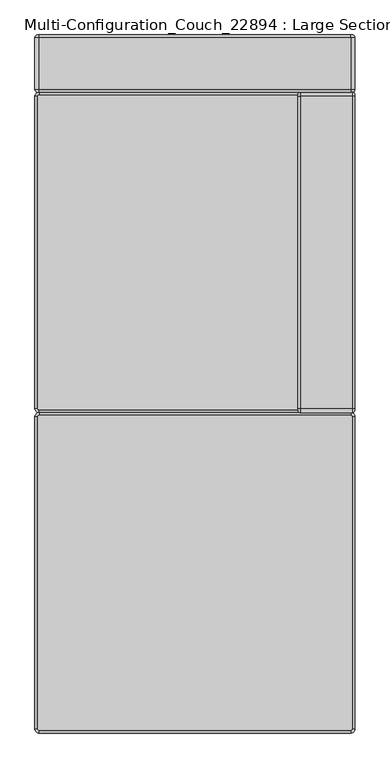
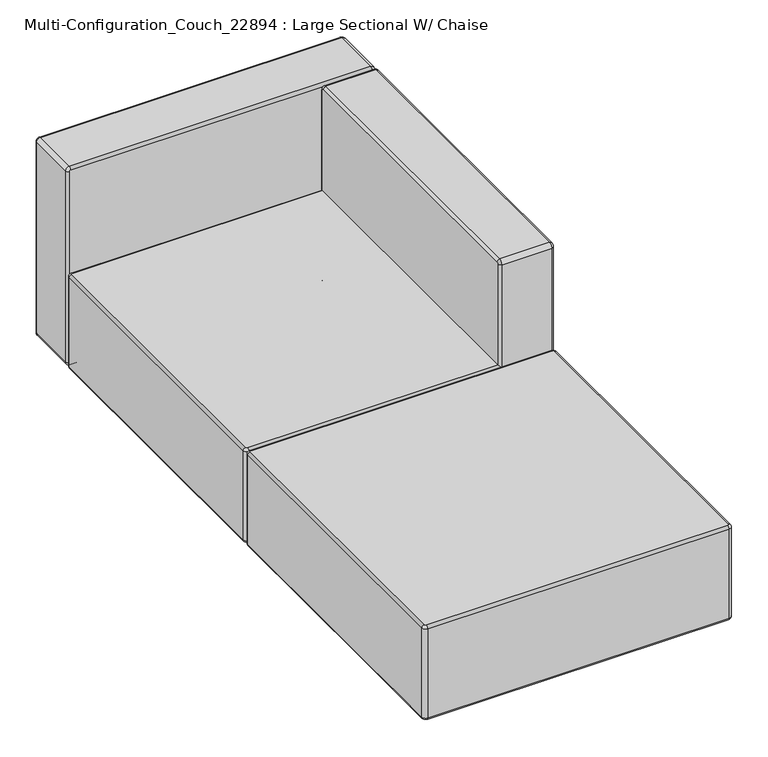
"""IFC4 building model written with IfcOpenShell, lengths in millimetres: furniture geometry, Multi-Configuration_Couch_22894 : Large Sectional W/ Chaise."""

from ifc_helpers import new_model, si_unit, point, frame, origin, place, context, project, spatial, circle_curve, ellipse_curve, trimmed, source, transform, mapped, element, save
from ifc_brep_helpers import plane_surface, cylinder_surface, revolved_surface, advanced_brep


def multi_configuration_couch_22894_large_sectional_w_chaise_a777d03c(model_context):
    return source(origin(), model_context, "Body", "AdvancedBrep", [
        advanced_brep(
        [(1290.9237705, 1444.5729508, 549.275), (1294.0987705, 1444.5729508, 552.45), (1986.2487705, 1444.5729508, 552.45), (1989.4237705, 1444.5729508, 549.275), (1989.4237705, 1444.5729508, 85.725), (1986.2487705, 1444.5729508, 82.55), (1294.0987705, 1444.5729508, 82.55), (1290.9237705, 1444.5729508, 85.725), (1290.9237705, 1317.5729508, 85.725), (1294.0987705, 1317.5729508, 82.55), (1986.2487705, 1317.5729508, 82.55), (1989.4237705, 1317.5729508, 85.725), (1989.4237705, 1317.5729508, 549.275), (1986.2487705, 1317.5729508, 552.45), (1294.0987705, 1317.5729508, 552.45), (1290.9237705, 1317.5729508, 549.275), (1294.0987705, 1438.2229508, 558.8), (1294.0987705, 1323.9229508, 558.8), (1986.2487705, 1323.9229508, 558.8), (1986.2487705, 1438.2229572, 558.8), (1284.5737705, 1438.2229508, 85.725), (1284.5737705, 1323.9229508, 85.725), (1284.5737705, 1323.9229508, 549.275), (1284.5737705, 1438.2229508, 549.275), (1986.2487705, 1438.2229508, 76.2), (1986.2487705, 1323.9229508, 76.2), (1294.0987705, 1323.9229508, 76.2), (1294.0987705, 1438.2229508, 76.2), (1995.7737705, 1438.2229508, 549.275), (1995.7737705, 1323.9229508, 549.275), (1995.7737705, 1323.9229508, 85.725), (1995.7737705, 1438.2229508, 85.725)],
        [
            (0, 1, circle_curve(frame((1294.0987705, 1444.5729508, 549.275), z_axis=(0.0, 1.0, 0.0), x_axis=(0.0, 0.0, 1.0)), 3.175)),
            (1, 2),
            (2, 3, circle_curve(frame((1986.2487705, 1444.5729508, 549.275), z_axis=(0.0, 1.0, 0.0), x_axis=(1.0, 0.0, 0.0)), 3.175)),
            (3, 4),
            (4, 5, circle_curve(frame((1986.2487705, 1444.5729508, 85.725), z_axis=(0.0, 1.0, 0.0), x_axis=(0.0, 0.0, -1.0)), 3.175)),
            (5, 6),
            (6, 7, circle_curve(frame((1294.0987705, 1444.5729508, 85.725), z_axis=(0.0, 1.0, 0.0), x_axis=(-1.0, 0.0, 0.0)), 3.175)),
            (7, 0),
            (8, 9, circle_curve(frame((1294.0987705, 1317.5729508, 85.725), z_axis=(0.0, -1.0, 0.0), x_axis=(-1.0, 0.0, 0.0)), 3.175)),
            (9, 10),
            (10, 11, circle_curve(frame((1986.2487705, 1317.5729508, 85.725), z_axis=(0.0, -1.0, 0.0), x_axis=(0.0, 0.0, -1.0)), 3.175)),
            (11, 12),
            (12, 13, circle_curve(frame((1986.2487705, 1317.5729508, 549.275), z_axis=(0.0, -1.0, 0.0), x_axis=(1.0, 0.0, 0.0)), 3.175)),
            (13, 14),
            (14, 15, circle_curve(frame((1294.0987705, 1317.5729508, 549.275), z_axis=(0.0, -1.0, 0.0), x_axis=(0.0, 0.0, 1.0)), 3.175)),
            (15, 8),
            (16, 17),
            (17, 18),
            (18, 19),
            (19, 16),
            (20, 21),
            (21, 22),
            (22, 23),
            (23, 20),
            (24, 25),
            (25, 26),
            (26, 27),
            (27, 24),
            (28, 29),
            (29, 30),
            (30, 31),
            (31, 28),
            (22, 17, circle_curve(frame((1294.0987705, 1323.9229508, 549.275), z_axis=(0.0, 1.0, 0.0), x_axis=(1.0, 0.0, 0.0)), 9.525)),
            (16, 23, circle_curve(frame((1294.0987705, 1438.2229508, 549.275), z_axis=(0.0, -1.0, 0.0), x_axis=(1.0, 0.0, 0.0)), 9.525)),
            (18, 29, circle_curve(frame((1986.2487705, 1323.9229508, 549.275), z_axis=(0.0, 1.0, 0.0), x_axis=(1.0, 0.0, 0.0)), 9.525)),
            (28, 19, circle_curve(frame((1986.2487705, 1438.2229508, 549.275), z_axis=(0.0, -1.0, 0.0), x_axis=(1.0, 0.0, 0.0)), 9.525)),
            (26, 21, circle_curve(frame((1294.0987705, 1323.9229508, 85.725), z_axis=(0.0, 1.0, 0.0), x_axis=(1.0, 0.0, 0.0)), 9.525)),
            (20, 27, circle_curve(frame((1294.0987705, 1438.2229508, 85.725), z_axis=(0.0, -1.0, 0.0), x_axis=(1.0, 0.0, 0.0)), 9.525)),
            (30, 25, circle_curve(frame((1986.2487705, 1323.9229508, 85.725), z_axis=(0.0, 1.0, 0.0), x_axis=(1.0, 0.0, 0.0)), 9.525)),
            (24, 31, circle_curve(frame((1986.2487705, 1438.2229508, 85.725), z_axis=(0.0, -1.0, 0.0), x_axis=(1.0, 0.0, 0.0)), 9.525)),
            (23, 0, circle_curve(frame((1290.9237705, 1438.2229508, 549.275), z_axis=(0.0, 0.0, -1.0), x_axis=(1.0, 0.0, 0.0)), 6.35)),
            (7, 20, circle_curve(frame((1290.9237705, 1438.2229508, 85.725), z_axis=(0.0, 0.0, 1.0), x_axis=(1.0, 0.0, 0.0)), 6.35)),
            (27, 6, circle_curve(frame((1294.0987705, 1438.2229508, 82.55), z_axis=(1.0, 0.0, 0.0), x_axis=(0.0, 0.0, 1.0)), 6.35)),
            (5, 24, circle_curve(frame((1986.2487705, 1438.2229508, 82.55), z_axis=(-1.0, 0.0, 0.0), x_axis=(0.0, 0.0, 1.0)), 6.35)),
            (31, 4, circle_curve(frame((1989.4237705, 1438.2229508, 85.725), z_axis=(0.0, 0.0, 1.0), x_axis=(-1.0, 0.0, 0.0)), 6.35)),
            (3, 28, circle_curve(frame((1989.4237705, 1438.2229508, 549.275), z_axis=(0.0, 0.0, -1.0), x_axis=(-1.0, 0.0, 0.0)), 6.35)),
            (2, 19, circle_curve(frame((1986.2487705, 1438.2229508, 552.45), z_axis=(1.0, 0.0, 0.0), x_axis=(0.0, 0.0, -1.0)), 6.35)),
            (1, 16, circle_curve(frame((1294.0987705, 1438.2229508, 552.45), z_axis=(1.0, 0.0, 0.0), x_axis=(0.0, 0.0, -1.0)), 6.35)),
            (15, 22, circle_curve(frame((1290.9237705, 1323.9229508, 549.275), z_axis=(0.0, 0.0, -1.0), x_axis=(1.0, 0.0, 0.0)), 6.35)),
            (21, 8, circle_curve(frame((1290.9237705, 1323.9229508, 85.725), z_axis=(0.0, 0.0, 1.0), x_axis=(1.0, 0.0, 0.0)), 6.35)),
            (9, 26, circle_curve(frame((1294.0987705, 1323.9229508, 82.55), z_axis=(1.0, 0.0, 0.0), x_axis=(0.0, 0.0, 1.0)), 6.35)),
            (25, 10, circle_curve(frame((1986.2487705, 1323.9229508, 82.55), z_axis=(-1.0, 0.0, 0.0), x_axis=(0.0, 0.0, 1.0)), 6.35)),
            (11, 30, circle_curve(frame((1989.4237705, 1323.9229508, 85.725), z_axis=(0.0, 0.0, 1.0), x_axis=(-1.0, 0.0, 0.0)), 6.35)),
            (29, 12, circle_curve(frame((1989.4237705, 1323.9229508, 549.275), z_axis=(0.0, 0.0, -1.0), x_axis=(-1.0, 0.0, 0.0)), 6.35)),
            (13, 18, circle_curve(frame((1986.2487705, 1323.9229508, 552.45), z_axis=(-1.0, 0.0, 0.0), x_axis=(0.0, 0.0, -1.0)), 6.35)),
            (17, 14, circle_curve(frame((1294.0987705, 1323.9229508, 552.45), z_axis=(1.0, 0.0, 0.0), x_axis=(0.0, 0.0, -1.0)), 6.35)),
        ],
        [
            plane_surface(frame((1284.5737705, 1444.5729508, 558.8), z_axis=(0.0, 1.0, 0.0), x_axis=(-1.0, 0.0, 0.0))),
            plane_surface(frame((1284.5737705, 1317.5729508, 558.8), z_axis=(0.0, -1.0, 0.0), x_axis=(1.0, 0.0, 0.0))),
            plane_surface(frame((1995.7737705, 1444.5729508, 558.8), z_axis=(0.0, 0.0, 1.0), x_axis=(0.0, -1.0, 0.0))),
            plane_surface(frame((1284.5737705, 1444.5729508, 558.8), z_axis=(-1.0, 0.0, 0.0), x_axis=(0.0, -1.0, 0.0))),
            plane_surface(frame((1284.5737705, 1444.5729508, 76.2), z_axis=(0.0, 0.0, -1.0), x_axis=(0.0, -1.0, 0.0))),
            plane_surface(frame((1995.7737705, 1444.5729508, 76.2), z_axis=(1.0, 0.0, 0.0), x_axis=(0.0, -1.0, 0.0))),
            cylinder_surface(frame((1294.0987705, 1317.5729508, 549.275), z_axis=(0.0, -1.0, 0.0), x_axis=(1.0, 0.0, 0.0)), 9.525),
            cylinder_surface(frame((1986.2487705, 1317.5729508, 549.275), z_axis=(0.0, -1.0, 0.0), x_axis=(1.0, 0.0, 0.0)), 9.525),
            cylinder_surface(frame((1294.0987705, 1317.5729508, 85.725), z_axis=(0.0, -1.0, 0.0), x_axis=(1.0, 0.0, 0.0)), 9.525),
            cylinder_surface(frame((1986.2487705, 1317.5729508, 85.725), z_axis=(0.0, -1.0, 0.0), x_axis=(1.0, 0.0, 0.0)), 9.525),
            cylinder_surface(frame((1290.9237705, 1438.2229508, 549.275), z_axis=(0.0, 0.0, -1.0), x_axis=(1.0, 0.0, 0.0)), 6.35),
            cylinder_surface(frame((1294.0987705, 1438.2229508, 82.55), z_axis=(1.0, 0.0, 0.0), x_axis=(0.0, 0.0, 1.0)), 6.35),
            cylinder_surface(frame((1989.4237705, 1438.2229508, 85.725), z_axis=(0.0, 0.0, 1.0), x_axis=(-1.0, 0.0, 0.0)), 6.35),
            revolved_surface(trimmed(ellipse_curve(frame((1989.4237705, 1438.2229508, 549.275), z_axis=(0.0, 0.0, 1.0), x_axis=(-1.0, 0.0, 0.0)), 6.35, 6.35), [point((1995.7737705, 1438.2229508, 549.275))], [point((1989.4237705, 1444.5729508, 549.275))], True, "CARTESIAN"), (1986.2487705, 1444.5729508, 549.275), (0.0, 1.0, 0.0)),
            cylinder_surface(frame((1986.2487705, 1438.2229508, 552.45), z_axis=(-1.0, 0.0, 0.0), x_axis=(0.0, 0.0, -1.0)), 6.35),
            cylinder_surface(frame((1290.9237705, 1323.9229508, 549.275), z_axis=(0.0, 0.0, -1.0), x_axis=(1.0, 0.0, 0.0)), 6.35),
            cylinder_surface(frame((1294.0987705, 1323.9229508, 82.55), z_axis=(1.0, 0.0, 0.0), x_axis=(0.0, 0.0, 1.0)), 6.35),
            cylinder_surface(frame((1989.4237705, 1323.9229508, 85.725), z_axis=(0.0, 0.0, 1.0), x_axis=(-1.0, 0.0, 0.0)), 6.35),
            cylinder_surface(frame((1986.2487705, 1323.9229508, 552.45), z_axis=(-1.0, 0.0, 0.0), x_axis=(0.0, 0.0, -1.0)), 6.35),
            revolved_surface(trimmed(ellipse_curve(frame((1294.0987705, 1438.2229508, 552.45), z_axis=(-1.0, 0.0, 0.0), x_axis=(0.0, 0.0, -1.0)), 6.35, 6.35), [point((1294.0987705, 1438.2229508, 558.8))], [point((1294.0987705, 1444.5729508, 552.45))], True, "CARTESIAN"), (1294.0987705, 1444.5729508, 549.275), (0.0, 1.0, 0.0)),
            revolved_surface(trimmed(ellipse_curve(frame((1290.9237705, 1438.2229508, 85.725), z_axis=(0.0, 0.0, -1.0), x_axis=(1.0, 0.0, 0.0)), 6.35, 6.35), [point((1284.5737705, 1438.2229508, 85.725))], [point((1290.9237705, 1444.5729508, 85.725))], True, "CARTESIAN"), (1294.0987705, 1444.5729508, 85.725), (0.0, 1.0, 0.0)),
            revolved_surface(trimmed(ellipse_curve(frame((1986.2487705, 1438.2229508, 82.55), z_axis=(1.0, 0.0, 0.0), x_axis=(0.0, 0.0, 1.0)), 6.35, 6.35), [point((1986.2487705, 1438.2229508, 76.2))], [point((1986.2487705, 1444.5729508, 82.55))], True, "CARTESIAN"), (1986.2487705, 1444.5729508, 85.725), (0.0, 1.0, 0.0)),
            revolved_surface(trimmed(ellipse_curve(frame((1294.0987705, 1323.9229508, 552.45), z_axis=(-1.0, 0.0, 0.0), x_axis=(0.0, 0.0, -1.0)), 6.35, 6.35), [point((1294.0987705, 1317.5729508, 552.45))], [point((1294.0987705, 1323.9229508, 558.8))], True, "CARTESIAN"), (1294.0987705, 1317.5729508, 549.275), (0.0, 1.0, 0.0)),
            revolved_surface(trimmed(ellipse_curve(frame((1290.9237705, 1323.9229508, 85.725), z_axis=(0.0, 0.0, -1.0), x_axis=(1.0, 0.0, 0.0)), 6.35, 6.35), [point((1290.9237705, 1317.5729508, 85.725))], [point((1284.5737705, 1323.9229508, 85.725))], True, "CARTESIAN"), (1294.0987705, 1317.5729508, 85.725), (0.0, 1.0, 0.0)),
            revolved_surface(trimmed(ellipse_curve(frame((1986.2487705, 1323.9229508, 82.55), z_axis=(1.0, 0.0, 0.0), x_axis=(0.0, 0.0, 1.0)), 6.35, 6.35), [point((1986.2487705, 1317.5729508, 82.55))], [point((1986.2487705, 1323.9229508, 76.2))], True, "CARTESIAN"), (1986.2487705, 1317.5729508, 85.725), (0.0, 1.0, 0.0)),
            revolved_surface(trimmed(ellipse_curve(frame((1989.4237705, 1323.9229508, 549.275), z_axis=(0.0, 0.0, 1.0), x_axis=(-1.0, 0.0, 0.0)), 6.35, 6.35), [point((1989.4237705, 1317.5729508, 549.275))], [point((1995.7737705, 1323.9229508, 549.275))], True, "CARTESIAN"), (1986.2487705, 1317.5729508, 549.275), (0.0, 1.0, 0.0)),
        ],
        [
            (0, [[1, 2, 3, 4, 5, 6, 7, 8]]),
            (1, [[9, 10, 11, 12, 13, 14, 15, 16]]),
            (2, [[17, 18, 19, 20]]),
            (3, [[21, 22, 23, 24]]),
            (4, [[25, 26, 27, 28]]),
            (5, [[29, 30, 31, 32]]),
            (6, [[-23, 33, -17, 34]]),
            (7, [[-19, 35, -29, 36]]),
            (8, [[-27, 37, -21, 38]]),
            (9, [[-31, 39, -25, 40]]),
            (10, [[-24, 41, -8, 42]]),
            (11, [[-28, 43, -6, 44]]),
            (12, [[-32, 45, -4, 46]]),
            (13, [[-3, 47, -36, -46]]),
            (14, [[-2, 48, -20, -47]]),
            (15, [[-16, 49, -22, 50]]),
            (16, [[-10, 51, -26, 52]]),
            (17, [[-12, 53, -30, 54]]),
            (18, [[-14, 55, -18, 56]]),
            (19, [[-34, -48, -1, -41]]),
            (20, [[-7, -43, -38, -42]]),
            (21, [[-5, -45, -40, -44]]),
            (22, [[-15, -56, -33, -49]]),
            (23, [[-37, -51, -9, -50]]),
            (24, [[-39, -53, -11, -52]]),
            (25, [[-35, -55, -13, -54]]),
        ],
    ),
        advanced_brep(
        [(1989.4237705, 1308.0479508, 304.8), (1986.2487705, 1311.2229508, 304.8), (1294.0987705, 1311.2229508, 304.8), (1290.9237705, 1308.0479508, 304.8), (1290.9237705, 615.8979508, 304.8), (1294.0987705, 612.7229508, 304.8), (1986.2487705, 612.7229508, 304.8), (1989.4237705, 615.8979508, 304.8), (1989.4237705, 615.8979508, 76.2), (1986.2487705, 612.7229508, 76.2), (1294.0987705, 612.7229508, 76.2), (1290.9237705, 615.8979508, 76.2), (1290.9237705, 1308.0479508, 76.2), (1294.0987705, 1311.2229508, 76.2), (1986.2487705, 1311.2229508, 76.2), (1989.4237705, 1308.0479508, 76.2), (1986.2487705, 1317.5729508, 298.45), (1986.2487705, 1317.5729508, 82.55), (1294.0987705, 1317.5729508, 82.55), (1294.0987705, 1317.5729508, 298.4500065), (1995.7737705, 615.8979508, 298.45), (1995.7737705, 615.8979508, 82.55), (1995.7737705, 1308.0479508, 82.55), (1995.7737705, 1308.0479508, 298.45), (1294.0987705, 606.3729508, 298.45), (1294.0987705, 606.3729508, 82.55), (1986.2487705, 606.3729508, 82.55), (1986.2487705, 606.3729508, 298.45), (1284.5737705, 1308.0479508, 298.45), (1284.5737705, 1308.0479508, 82.55), (1284.5737705, 615.8979508, 82.55), (1284.5737705, 615.8979508, 298.45)],
        [
            (0, 1, circle_curve(frame((1986.2487705, 1308.0479508, 304.8), z_axis=(0.0, 0.0, 1.0), x_axis=(0.0, 1.0, 0.0)), 3.175)),
            (1, 2),
            (2, 3, circle_curve(frame((1294.0987705, 1308.0479508, 304.8), z_axis=(0.0, 0.0, 1.0), x_axis=(-1.0, 0.0, 0.0)), 3.175)),
            (3, 4),
            (4, 5, circle_curve(frame((1294.0987705, 615.8979508, 304.8), z_axis=(0.0, 0.0, 1.0), x_axis=(0.0, -1.0, 0.0)), 3.175)),
            (5, 6),
            (6, 7, circle_curve(frame((1986.2487705, 615.8979508, 304.8), z_axis=(0.0, 0.0, 1.0), x_axis=(1.0, 0.0, 0.0)), 3.175)),
            (7, 0),
            (8, 9, circle_curve(frame((1986.2487705, 615.8979508, 76.2), z_axis=(0.0, 0.0, -1.0), x_axis=(1.0, 0.0, 0.0)), 3.175)),
            (9, 10),
            (10, 11, circle_curve(frame((1294.0987705, 615.8979508, 76.2), z_axis=(0.0, 0.0, -1.0), x_axis=(0.0, -1.0, 0.0)), 3.175)),
            (11, 12),
            (12, 13, circle_curve(frame((1294.0987705, 1308.0479508, 76.2), z_axis=(0.0, 0.0, -1.0), x_axis=(-1.0, 0.0, 0.0)), 3.175)),
            (13, 14),
            (14, 15, circle_curve(frame((1986.2487705, 1308.0479508, 76.2), z_axis=(0.0, 0.0, -1.0), x_axis=(0.0, 1.0, 0.0)), 3.175)),
            (15, 8),
            (16, 17),
            (17, 18),
            (18, 19),
            (19, 16),
            (20, 21),
            (21, 22),
            (22, 23),
            (23, 20),
            (24, 25),
            (25, 26),
            (26, 27),
            (27, 24),
            (28, 29),
            (29, 30),
            (30, 31),
            (31, 28),
            (22, 17, circle_curve(frame((1986.2487705, 1308.0479508, 82.55), z_axis=(0.0, 0.0, 1.0), x_axis=(-1.0, 0.0, 0.0)), 9.525)),
            (16, 23, circle_curve(frame((1986.2487705, 1308.0479508, 298.45), z_axis=(0.0, 0.0, -1.0), x_axis=(-1.0, 0.0, 0.0)), 9.525)),
            (18, 29, circle_curve(frame((1294.0987705, 1308.0479508, 82.55), z_axis=(0.0, 0.0, 1.0), x_axis=(-1.0, 0.0, 0.0)), 9.525)),
            (28, 19, circle_curve(frame((1294.0987705, 1308.0479508, 298.45), z_axis=(0.0, 0.0, -1.0), x_axis=(-1.0, 0.0, 0.0)), 9.525)),
            (26, 21, circle_curve(frame((1986.2487705, 615.8979508, 82.55), z_axis=(0.0, 0.0, 1.0), x_axis=(-1.0, 0.0, 0.0)), 9.525)),
            (20, 27, circle_curve(frame((1986.2487705, 615.8979508, 298.45), z_axis=(0.0, 0.0, -1.0), x_axis=(-1.0, 0.0, 0.0)), 9.525)),
            (30, 25, circle_curve(frame((1294.0987705, 615.8979508, 82.55), z_axis=(0.0, 0.0, 1.0), x_axis=(-1.0, 0.0, 0.0)), 9.525)),
            (24, 31, circle_curve(frame((1294.0987705, 615.8979508, 298.45), z_axis=(0.0, 0.0, -1.0), x_axis=(-1.0, 0.0, 0.0)), 9.525)),
            (23, 0, circle_curve(frame((1989.4237705, 1308.0479508, 298.45), z_axis=(0.0, -1.0, 0.0), x_axis=(-1.0, 0.0, 0.0)), 6.35)),
            (7, 20, circle_curve(frame((1989.4237705, 615.8979508, 298.45), z_axis=(0.0, 1.0, 0.0), x_axis=(-1.0, 0.0, 0.0)), 6.35)),
            (27, 6, circle_curve(frame((1986.2487705, 612.7229508, 298.45), z_axis=(-1.0, 0.0, 0.0), x_axis=(0.0, 1.0, 0.0)), 6.35)),
            (5, 24, circle_curve(frame((1294.0987705, 612.7229508, 298.45), z_axis=(1.0, 0.0, 0.0), x_axis=(0.0, 1.0, 0.0)), 6.35)),
            (31, 4, circle_curve(frame((1290.9237705, 615.8979508, 298.45), z_axis=(0.0, 1.0, 0.0), x_axis=(1.0, 0.0, 0.0)), 6.35)),
            (3, 28, circle_curve(frame((1290.9237705, 1308.0479508, 298.45), z_axis=(0.0, -1.0, 0.0), x_axis=(1.0, 0.0, 0.0)), 6.35)),
            (2, 19, circle_curve(frame((1294.0987705, 1311.2229508, 298.45), z_axis=(-1.0, 0.0, 0.0), x_axis=(0.0, -1.0, 0.0)), 6.35)),
            (1, 16, circle_curve(frame((1986.2487705, 1311.2229508, 298.45), z_axis=(-1.0, 0.0, 0.0), x_axis=(0.0, -1.0, 0.0)), 6.35)),
            (15, 22, circle_curve(frame((1989.4237705, 1308.0479508, 82.55), z_axis=(0.0, -1.0, 0.0), x_axis=(-1.0, 0.0, 0.0)), 6.35)),
            (21, 8, circle_curve(frame((1989.4237705, 615.8979508, 82.55), z_axis=(0.0, 1.0, 0.0), x_axis=(-1.0, 0.0, 0.0)), 6.35)),
            (9, 26, circle_curve(frame((1986.2487705, 612.7229508, 82.55), z_axis=(-1.0, 0.0, 0.0), x_axis=(0.0, 1.0, 0.0)), 6.35)),
            (25, 10, circle_curve(frame((1294.0987705, 612.7229508, 82.55), z_axis=(1.0, 0.0, 0.0), x_axis=(0.0, 1.0, 0.0)), 6.35)),
            (11, 30, circle_curve(frame((1290.9237705, 615.8979508, 82.55), z_axis=(0.0, 1.0, 0.0), x_axis=(1.0, 0.0, 0.0)), 6.35)),
            (29, 12, circle_curve(frame((1290.9237705, 1308.0479508, 82.55), z_axis=(0.0, -1.0, 0.0), x_axis=(1.0, 0.0, 0.0)), 6.35)),
            (13, 18, circle_curve(frame((1294.0987705, 1311.2229508, 82.55), z_axis=(1.0, 0.0, 0.0), x_axis=(0.0, -1.0, 0.0)), 6.35)),
            (17, 14, circle_curve(frame((1986.2487705, 1311.2229508, 82.55), z_axis=(-1.0, 0.0, 0.0), x_axis=(0.0, -1.0, 0.0)), 6.35)),
        ],
        [
            plane_surface(frame((1995.7737705, 1317.5729508, 304.8), z_axis=(0.0, 0.0, 1.0), x_axis=(1.0, 0.0, 0.0))),
            plane_surface(frame((1995.7737705, 1317.5729508, 76.2), z_axis=(0.0, 0.0, -1.0), x_axis=(-1.0, 0.0, 0.0))),
            plane_surface(frame((1284.5737705, 1317.5729508, 304.8), z_axis=(0.0, 1.0, 0.0), x_axis=(0.0, 0.0, -1.0))),
            plane_surface(frame((1995.7737705, 1317.5729508, 304.8), z_axis=(1.0, 0.0, 0.0), x_axis=(0.0, 0.0, -1.0))),
            plane_surface(frame((1995.7737705, 606.3729508, 304.8), z_axis=(0.0, -1.0, 0.0), x_axis=(0.0, 0.0, -1.0))),
            plane_surface(frame((1284.5737705, 606.3729508, 304.8), z_axis=(-1.0, 0.0, 0.0), x_axis=(0.0, 0.0, -1.0))),
            cylinder_surface(frame((1986.2487705, 1308.0479508, 76.2), z_axis=(0.0, 0.0, -1.0), x_axis=(-1.0, 0.0, 0.0)), 9.525),
            cylinder_surface(frame((1294.0987705, 1308.0479508, 76.2), z_axis=(0.0, 0.0, -1.0), x_axis=(-1.0, 0.0, 0.0)), 9.525),
            cylinder_surface(frame((1986.2487705, 615.8979508, 76.2), z_axis=(0.0, 0.0, -1.0), x_axis=(-1.0, 0.0, 0.0)), 9.525),
            cylinder_surface(frame((1294.0987705, 615.8979508, 76.2), z_axis=(0.0, 0.0, -1.0), x_axis=(-1.0, 0.0, 0.0)), 9.525),
            cylinder_surface(frame((1989.4237705, 1308.0479508, 298.45), z_axis=(0.0, -1.0, 0.0), x_axis=(-1.0, 0.0, 0.0)), 6.35),
            cylinder_surface(frame((1986.2487705, 612.7229508, 298.45), z_axis=(-1.0, 0.0, 0.0), x_axis=(0.0, 1.0, 0.0)), 6.35),
            cylinder_surface(frame((1290.9237705, 615.8979508, 298.45), z_axis=(0.0, 1.0, 0.0), x_axis=(1.0, 0.0, 0.0)), 6.35),
            revolved_surface(trimmed(ellipse_curve(frame((1290.9237705, 1308.0479508, 298.45), z_axis=(0.0, 1.0, 0.0), x_axis=(1.0, 0.0, 0.0)), 6.35, 6.35), [point((1284.5737705, 1308.0479508, 298.45))], [point((1290.9237705, 1308.0479508, 304.8))], True, "CARTESIAN"), (1294.0987705, 1308.0479508, 304.8), (0.0, 0.0, 1.0)),
            cylinder_surface(frame((1294.0987705, 1311.2229508, 298.45), z_axis=(1.0, 0.0, 0.0), x_axis=(0.0, -1.0, 0.0)), 6.35),
            cylinder_surface(frame((1989.4237705, 1308.0479508, 82.55), z_axis=(0.0, -1.0, 0.0), x_axis=(-1.0, 0.0, 0.0)), 6.35),
            cylinder_surface(frame((1986.2487705, 612.7229508, 82.55), z_axis=(-1.0, 0.0, 0.0), x_axis=(0.0, 1.0, 0.0)), 6.35),
            cylinder_surface(frame((1290.9237705, 615.8979508, 82.55), z_axis=(0.0, 1.0, 0.0), x_axis=(1.0, 0.0, 0.0)), 6.35),
            cylinder_surface(frame((1294.0987705, 1311.2229508, 82.55), z_axis=(1.0, 0.0, 0.0), x_axis=(0.0, -1.0, 0.0)), 6.35),
            revolved_surface(trimmed(ellipse_curve(frame((1986.2487705, 1311.2229508, 298.45), z_axis=(1.0, 0.0, 0.0), x_axis=(0.0, -1.0, 0.0)), 6.35, 6.35), [point((1986.2487705, 1317.5729508, 298.45))], [point((1986.2487705, 1311.2229508, 304.8))], True, "CARTESIAN"), (1986.2487705, 1308.0479508, 304.8), (0.0, 0.0, 1.0)),
            revolved_surface(trimmed(ellipse_curve(frame((1989.4237705, 615.8979508, 298.45), z_axis=(0.0, -1.0, 0.0), x_axis=(-1.0, 0.0, 0.0)), 6.35, 6.35), [point((1995.7737705, 615.8979508, 298.45))], [point((1989.4237705, 615.8979508, 304.8))], True, "CARTESIAN"), (1986.2487705, 615.8979508, 304.8), (0.0, 0.0, 1.0)),
            revolved_surface(trimmed(ellipse_curve(frame((1294.0987705, 612.7229508, 298.45), z_axis=(-1.0, 0.0, 0.0), x_axis=(0.0, 1.0, 0.0)), 6.35, 6.35), [point((1294.0987705, 606.3729508, 298.45))], [point((1294.0987705, 612.7229508, 304.8))], True, "CARTESIAN"), (1294.0987705, 615.8979508, 304.8), (0.0, 0.0, 1.0)),
            revolved_surface(trimmed(ellipse_curve(frame((1986.2487705, 1311.2229508, 82.55), z_axis=(1.0, 0.0, 0.0), x_axis=(0.0, -1.0, 0.0)), 6.35, 6.35), [point((1986.2487705, 1311.2229508, 76.2))], [point((1986.2487705, 1317.5729508, 82.55))], True, "CARTESIAN"), (1986.2487705, 1308.0479508, 76.2), (0.0, 0.0, 1.0)),
            revolved_surface(trimmed(ellipse_curve(frame((1989.4237705, 615.8979508, 82.55), z_axis=(0.0, -1.0, 0.0), x_axis=(-1.0, 0.0, 0.0)), 6.35, 6.35), [point((1989.4237705, 615.8979508, 76.2))], [point((1995.7737705, 615.8979508, 82.55))], True, "CARTESIAN"), (1986.2487705, 615.8979508, 76.2), (0.0, 0.0, 1.0)),
            revolved_surface(trimmed(ellipse_curve(frame((1294.0987705, 612.7229508, 82.55), z_axis=(-1.0, 0.0, 0.0), x_axis=(0.0, 1.0, 0.0)), 6.35, 6.35), [point((1294.0987705, 612.7229508, 76.2))], [point((1294.0987705, 606.3729508, 82.55))], True, "CARTESIAN"), (1294.0987705, 615.8979508, 76.2), (0.0, 0.0, 1.0)),
            revolved_surface(trimmed(ellipse_curve(frame((1290.9237705, 1308.0479508, 82.55), z_axis=(0.0, 1.0, 0.0), x_axis=(1.0, 0.0, 0.0)), 6.35, 6.35), [point((1290.9237705, 1308.0479508, 76.2))], [point((1284.5737705, 1308.0479508, 82.55))], True, "CARTESIAN"), (1294.0987705, 1308.0479508, 76.2), (0.0, 0.0, 1.0)),
        ],
        [
            (0, [[1, 2, 3, 4, 5, 6, 7, 8]]),
            (1, [[9, 10, 11, 12, 13, 14, 15, 16]]),
            (2, [[17, 18, 19, 20]]),
            (3, [[21, 22, 23, 24]]),
            (4, [[25, 26, 27, 28]]),
            (5, [[29, 30, 31, 32]]),
            (6, [[-23, 33, -17, 34]]),
            (7, [[-19, 35, -29, 36]]),
            (8, [[-27, 37, -21, 38]]),
            (9, [[-31, 39, -25, 40]]),
            (10, [[-24, 41, -8, 42]]),
            (11, [[-28, 43, -6, 44]]),
            (12, [[-32, 45, -4, 46]]),
            (13, [[-3, 47, -36, -46]]),
            (14, [[-2, 48, -20, -47]]),
            (15, [[-16, 49, -22, 50]]),
            (16, [[-10, 51, -26, 52]]),
            (17, [[-12, 53, -30, 54]]),
            (18, [[-14, 55, -18, 56]]),
            (19, [[-34, -48, -1, -41]]),
            (20, [[-7, -43, -38, -42]]),
            (21, [[-5, -45, -40, -44]]),
            (22, [[-15, -56, -33, -49]]),
            (23, [[-37, -51, -9, -50]]),
            (24, [[-39, -53, -11, -52]]),
            (25, [[-35, -55, -13, -54]]),
        ],
    ),
        advanced_brep(
        [(1868.7737705, 612.7229508, 549.275), (1868.7737705, 615.8979508, 552.45), (1868.7737705, 1308.0479508, 552.45), (1868.7737705, 1311.2229508, 549.275), (1868.7737705, 1311.2229508, 85.725), (1868.7737705, 1308.0479508, 82.55), (1868.7737705, 615.8979508, 82.55), (1868.7737705, 612.7229508, 85.725), (1995.7737705, 612.7229508, 85.725), (1995.7737705, 615.8979508, 82.55), (1995.7737705, 1308.0479508, 82.55), (1995.7737705, 1311.2229508, 85.725), (1995.7737705, 1311.2229508, 549.275), (1995.7737705, 1308.0479508, 552.45), (1995.7737705, 615.8979508, 552.45), (1995.7737705, 612.7229508, 549.275), (1875.1237705, 615.8979508, 558.8), (1989.4237705, 615.8979508, 558.8), (1989.4237705, 1308.0479508, 558.8), (1875.1237641, 1308.0479508, 558.8), (1875.1237705, 606.3729508, 85.725), (1989.4237705, 606.3729508, 85.725), (1989.4237705, 606.3729508, 549.275), (1875.1237705, 606.3729508, 549.275), (1875.1237705, 1308.0479508, 76.2), (1989.4237705, 1308.0479508, 76.2), (1989.4237705, 615.8979508, 76.2), (1875.1237705, 615.8979508, 76.2), (1875.1237705, 1317.5729508, 549.275), (1989.4237705, 1317.5729508, 549.275), (1989.4237705, 1317.5729508, 85.725), (1875.1237705, 1317.5729508, 85.725)],
        [
            (0, 1, circle_curve(frame((1868.7737705, 615.8979508, 549.275), z_axis=(-1.0, 0.0, 0.0), x_axis=(0.0, 0.0, 1.0)), 3.175)),
            (1, 2),
            (2, 3, circle_curve(frame((1868.7737705, 1308.0479508, 549.275), z_axis=(-1.0, 0.0, 0.0), x_axis=(0.0, 1.0, 0.0)), 3.175)),
            (3, 4),
            (4, 5, circle_curve(frame((1868.7737705, 1308.0479508, 85.725), z_axis=(-1.0, 0.0, 0.0), x_axis=(0.0, 0.0, -1.0)), 3.175)),
            (5, 6),
            (6, 7, circle_curve(frame((1868.7737705, 615.8979508, 85.725), z_axis=(-1.0, 0.0, 0.0), x_axis=(0.0, -1.0, 0.0)), 3.175)),
            (7, 0),
            (8, 9, circle_curve(frame((1995.7737705, 615.8979508, 85.725), z_axis=(1.0, 0.0, 0.0), x_axis=(0.0, -1.0, 0.0)), 3.175)),
            (9, 10),
            (10, 11, circle_curve(frame((1995.7737705, 1308.0479508, 85.725), z_axis=(1.0, 0.0, 0.0), x_axis=(0.0, 0.0, -1.0)), 3.175)),
            (11, 12),
            (12, 13, circle_curve(frame((1995.7737705, 1308.0479508, 549.275), z_axis=(1.0, 0.0, 0.0), x_axis=(0.0, 1.0, 0.0)), 3.175)),
            (13, 14),
            (14, 15, circle_curve(frame((1995.7737705, 615.8979508, 549.275), z_axis=(1.0, 0.0, 0.0), x_axis=(0.0, 0.0, 1.0)), 3.175)),
            (15, 8),
            (16, 17),
            (17, 18),
            (18, 19),
            (19, 16),
            (20, 21),
            (21, 22),
            (22, 23),
            (23, 20),
            (24, 25),
            (25, 26),
            (26, 27),
            (27, 24),
            (28, 29),
            (29, 30),
            (30, 31),
            (31, 28),
            (22, 17, circle_curve(frame((1989.4237705, 615.8979508, 549.275), z_axis=(-1.0, 0.0, 0.0), x_axis=(0.0, 1.0, 0.0)), 9.525)),
            (16, 23, circle_curve(frame((1875.1237705, 615.8979508, 549.275), z_axis=(1.0, 0.0, 0.0), x_axis=(0.0, 1.0, 0.0)), 9.525)),
            (18, 29, circle_curve(frame((1989.4237705, 1308.0479508, 549.275), z_axis=(-1.0, 0.0, 0.0), x_axis=(0.0, 1.0, 0.0)), 9.525)),
            (28, 19, circle_curve(frame((1875.1237705, 1308.0479508, 549.275), z_axis=(1.0, 0.0, 0.0), x_axis=(0.0, 1.0, 0.0)), 9.525)),
            (26, 21, circle_curve(frame((1989.4237705, 615.8979508, 85.725), z_axis=(-1.0, 0.0, 0.0), x_axis=(0.0, 1.0, 0.0)), 9.525)),
            (20, 27, circle_curve(frame((1875.1237705, 615.8979508, 85.725), z_axis=(1.0, 0.0, 0.0), x_axis=(0.0, 1.0, 0.0)), 9.525)),
            (30, 25, circle_curve(frame((1989.4237705, 1308.0479508, 85.725), z_axis=(-1.0, 0.0, 0.0), x_axis=(0.0, 1.0, 0.0)), 9.525)),
            (24, 31, circle_curve(frame((1875.1237705, 1308.0479508, 85.725), z_axis=(1.0, 0.0, 0.0), x_axis=(0.0, 1.0, 0.0)), 9.525)),
            (23, 0, circle_curve(frame((1875.1237705, 612.7229508, 549.275), z_axis=(0.0, 0.0, -1.0), x_axis=(0.0, 1.0, 0.0)), 6.35)),
            (7, 20, circle_curve(frame((1875.1237705, 612.7229508, 85.725), z_axis=(0.0, 0.0, 1.0), x_axis=(0.0, 1.0, 0.0)), 6.35)),
            (27, 6, circle_curve(frame((1875.1237705, 615.8979508, 82.55), z_axis=(0.0, 1.0, 0.0), x_axis=(0.0, 0.0, 1.0)), 6.35)),
            (5, 24, circle_curve(frame((1875.1237705, 1308.0479508, 82.55), z_axis=(0.0, -1.0, 0.0), x_axis=(0.0, 0.0, 1.0)), 6.35)),
            (31, 4, circle_curve(frame((1875.1237705, 1311.2229508, 85.725), z_axis=(0.0, 0.0, 1.0), x_axis=(0.0, -1.0, 0.0)), 6.35)),
            (3, 28, circle_curve(frame((1875.1237705, 1311.2229508, 549.275), z_axis=(0.0, 0.0, -1.0), x_axis=(0.0, -1.0, 0.0)), 6.35)),
            (2, 19, circle_curve(frame((1875.1237705, 1308.0479508, 552.45), z_axis=(0.0, 1.0, 0.0), x_axis=(0.0, 0.0, -1.0)), 6.35)),
            (1, 16, circle_curve(frame((1875.1237705, 615.8979508, 552.45), z_axis=(0.0, 1.0, 0.0), x_axis=(0.0, 0.0, -1.0)), 6.35)),
            (15, 22, circle_curve(frame((1989.4237705, 612.7229508, 549.275), z_axis=(0.0, 0.0, -1.0), x_axis=(0.0, 1.0, 0.0)), 6.35)),
            (21, 8, circle_curve(frame((1989.4237705, 612.7229508, 85.725), z_axis=(0.0, 0.0, 1.0), x_axis=(0.0, 1.0, 0.0)), 6.35)),
            (9, 26, circle_curve(frame((1989.4237705, 615.8979508, 82.55), z_axis=(0.0, 1.0, 0.0), x_axis=(0.0, 0.0, 1.0)), 6.35)),
            (25, 10, circle_curve(frame((1989.4237705, 1308.0479508, 82.55), z_axis=(0.0, -1.0, 0.0), x_axis=(0.0, 0.0, 1.0)), 6.35)),
            (11, 30, circle_curve(frame((1989.4237705, 1311.2229508, 85.725), z_axis=(0.0, 0.0, 1.0), x_axis=(0.0, -1.0, 0.0)), 6.35)),
            (29, 12, circle_curve(frame((1989.4237705, 1311.2229508, 549.275), z_axis=(0.0, 0.0, -1.0), x_axis=(0.0, -1.0, 0.0)), 6.35)),
            (13, 18, circle_curve(frame((1989.4237705, 1308.0479508, 552.45), z_axis=(0.0, -1.0, 0.0), x_axis=(0.0, 0.0, -1.0)), 6.35)),
            (17, 14, circle_curve(frame((1989.4237705, 615.8979508, 552.45), z_axis=(0.0, 1.0, 0.0), x_axis=(0.0, 0.0, -1.0)), 6.35)),
        ],
        [
            plane_surface(frame((1868.7737705, 606.3729508, 558.8), z_axis=(-1.0, 0.0, 0.0), x_axis=(0.0, -1.0, 0.0))),
            plane_surface(frame((1995.7737705, 606.3729508, 558.8), z_axis=(1.0, 0.0, 0.0), x_axis=(0.0, 1.0, 0.0))),
            plane_surface(frame((1868.7737705, 1317.5729508, 558.8), z_axis=(0.0, 0.0, 1.0), x_axis=(1.0, 0.0, 0.0))),
            plane_surface(frame((1868.7737705, 606.3729508, 558.8), z_axis=(0.0, -1.0, 0.0), x_axis=(1.0, 0.0, 0.0))),
            plane_surface(frame((1868.7737705, 606.3729508, 76.2), z_axis=(0.0, 0.0, -1.0), x_axis=(1.0, 0.0, 0.0))),
            plane_surface(frame((1868.7737705, 1317.5729508, 76.2), z_axis=(0.0, 1.0, 0.0), x_axis=(1.0, 0.0, 0.0))),
            cylinder_surface(frame((1995.7737705, 615.8979508, 549.275), z_axis=(1.0, 0.0, 0.0), x_axis=(0.0, 1.0, 0.0)), 9.525),
            cylinder_surface(frame((1995.7737705, 1308.0479508, 549.275), z_axis=(1.0, 0.0, 0.0), x_axis=(0.0, 1.0, 0.0)), 9.525),
            cylinder_surface(frame((1995.7737705, 615.8979508, 85.725), z_axis=(1.0, 0.0, 0.0), x_axis=(0.0, 1.0, 0.0)), 9.525),
            cylinder_surface(frame((1995.7737705, 1308.0479508, 85.725), z_axis=(1.0, 0.0, 0.0), x_axis=(0.0, 1.0, 0.0)), 9.525),
            cylinder_surface(frame((1875.1237705, 612.7229508, 549.275), z_axis=(0.0, 0.0, -1.0), x_axis=(0.0, 1.0, 0.0)), 6.35),
            cylinder_surface(frame((1875.1237705, 615.8979508, 82.55), z_axis=(0.0, 1.0, 0.0), x_axis=(0.0, 0.0, 1.0)), 6.35),
            cylinder_surface(frame((1875.1237705, 1311.2229508, 85.725), z_axis=(0.0, 0.0, 1.0), x_axis=(0.0, -1.0, 0.0)), 6.35),
            revolved_surface(trimmed(ellipse_curve(frame((1875.1237705, 1311.2229508, 549.275), z_axis=(0.0, 0.0, 1.0), x_axis=(0.0, -1.0, 0.0)), 6.35, 6.35), [point((1875.1237705, 1317.5729508, 549.275))], [point((1868.7737705, 1311.2229508, 549.275))], True, "CARTESIAN"), (1868.7737705, 1308.0479508, 549.275), (-1.0, 0.0, 0.0)),
            cylinder_surface(frame((1875.1237705, 1308.0479508, 552.45), z_axis=(0.0, -1.0, 0.0), x_axis=(0.0, 0.0, -1.0)), 6.35),
            cylinder_surface(frame((1989.4237705, 612.7229508, 549.275), z_axis=(0.0, 0.0, -1.0), x_axis=(0.0, 1.0, 0.0)), 6.35),
            cylinder_surface(frame((1989.4237705, 615.8979508, 82.55), z_axis=(0.0, 1.0, 0.0), x_axis=(0.0, 0.0, 1.0)), 6.35),
            cylinder_surface(frame((1989.4237705, 1311.2229508, 85.725), z_axis=(0.0, 0.0, 1.0), x_axis=(0.0, -1.0, 0.0)), 6.35),
            cylinder_surface(frame((1989.4237705, 1308.0479508, 552.45), z_axis=(0.0, -1.0, 0.0), x_axis=(0.0, 0.0, -1.0)), 6.35),
            revolved_surface(trimmed(ellipse_curve(frame((1875.1237705, 615.8979508, 552.45), z_axis=(0.0, -1.0, 0.0), x_axis=(0.0, 0.0, -1.0)), 6.35, 6.35), [point((1875.1237705, 615.8979508, 558.8))], [point((1868.7737705, 615.8979508, 552.45))], True, "CARTESIAN"), (1868.7737705, 615.8979508, 549.275), (-1.0, 0.0, 0.0)),
            revolved_surface(trimmed(ellipse_curve(frame((1875.1237705, 612.7229508, 85.725), z_axis=(0.0, 0.0, -1.0), x_axis=(0.0, 1.0, 0.0)), 6.35, 6.35), [point((1875.1237705, 606.3729508, 85.725))], [point((1868.7737705, 612.7229508, 85.725))], True, "CARTESIAN"), (1868.7737705, 615.8979508, 85.725), (-1.0, 0.0, 0.0)),
            revolved_surface(trimmed(ellipse_curve(frame((1875.1237705, 1308.0479508, 82.55), z_axis=(0.0, 1.0, 0.0), x_axis=(0.0, 0.0, 1.0)), 6.35, 6.35), [point((1875.1237705, 1308.0479508, 76.2))], [point((1868.7737705, 1308.0479508, 82.55))], True, "CARTESIAN"), (1868.7737705, 1308.0479508, 85.725), (-1.0, 0.0, 0.0)),
            revolved_surface(trimmed(ellipse_curve(frame((1989.4237705, 615.8979508, 552.45), z_axis=(0.0, -1.0, 0.0), x_axis=(0.0, 0.0, -1.0)), 6.35, 6.35), [point((1995.7737705, 615.8979508, 552.45))], [point((1989.4237705, 615.8979508, 558.8))], True, "CARTESIAN"), (1995.7737705, 615.8979508, 549.275), (-1.0, 0.0, 0.0)),
            revolved_surface(trimmed(ellipse_curve(frame((1989.4237705, 612.7229508, 85.725), z_axis=(0.0, 0.0, -1.0), x_axis=(0.0, 1.0, 0.0)), 6.35, 6.35), [point((1995.7737705, 612.7229508, 85.725))], [point((1989.4237705, 606.3729508, 85.725))], True, "CARTESIAN"), (1995.7737705, 615.8979508, 85.725), (-1.0, 0.0, 0.0)),
            revolved_surface(trimmed(ellipse_curve(frame((1989.4237705, 1308.0479508, 82.55), z_axis=(0.0, 1.0, 0.0), x_axis=(0.0, 0.0, 1.0)), 6.35, 6.35), [point((1995.7737705, 1308.0479508, 82.55))], [point((1989.4237705, 1308.0479508, 76.2))], True, "CARTESIAN"), (1995.7737705, 1308.0479508, 85.725), (-1.0, 0.0, 0.0)),
            revolved_surface(trimmed(ellipse_curve(frame((1989.4237705, 1311.2229508, 549.275), z_axis=(0.0, 0.0, 1.0), x_axis=(0.0, -1.0, 0.0)), 6.35, 6.35), [point((1995.7737705, 1311.2229508, 549.275))], [point((1989.4237705, 1317.5729508, 549.275))], True, "CARTESIAN"), (1995.7737705, 1308.0479508, 549.275), (-1.0, 0.0, 0.0)),
        ],
        [
            (0, [[1, 2, 3, 4, 5, 6, 7, 8]]),
            (1, [[9, 10, 11, 12, 13, 14, 15, 16]]),
            (2, [[17, 18, 19, 20]]),
            (3, [[21, 22, 23, 24]]),
            (4, [[25, 26, 27, 28]]),
            (5, [[29, 30, 31, 32]]),
            (6, [[-23, 33, -17, 34]]),
            (7, [[-19, 35, -29, 36]]),
            (8, [[-27, 37, -21, 38]]),
            (9, [[-31, 39, -25, 40]]),
            (10, [[-24, 41, -8, 42]]),
            (11, [[-28, 43, -6, 44]]),
            (12, [[-32, 45, -4, 46]]),
            (13, [[-3, 47, -36, -46]]),
            (14, [[-2, 48, -20, -47]]),
            (15, [[-16, 49, -22, 50]]),
            (16, [[-10, 51, -26, 52]]),
            (17, [[-12, 53, -30, 54]]),
            (18, [[-14, 55, -18, 56]]),
            (19, [[-34, -48, -1, -41]]),
            (20, [[-7, -43, -38, -42]]),
            (21, [[-5, -45, -40, -44]]),
            (22, [[-15, -56, -33, -49]]),
            (23, [[-37, -51, -9, -50]]),
            (24, [[-39, -53, -11, -52]]),
            (25, [[-35, -55, -13, -54]]),
        ],
    ),
        advanced_brep(
        [(1989.4237705, 596.8479508, 304.8), (1986.2487705, 600.0229508, 304.8), (1294.0987705, 600.0229508, 304.8), (1290.9237705, 596.8479508, 304.8), (1290.9237705, -95.3020492, 304.8), (1294.0987705, -98.4770492, 304.8), (1986.2487705, -98.4770492, 304.8), (1989.4237705, -95.3020492, 304.8), (1989.4237705, -95.3020492, 76.2), (1986.2487705, -98.4770492, 76.2), (1294.0987705, -98.4770492, 76.2), (1290.9237705, -95.3020492, 76.2), (1290.9237705, 596.8479508, 76.2), (1294.0987705, 600.0229508, 76.2), (1986.2487705, 600.0229508, 76.2), (1989.4237705, 596.8479508, 76.2), (1986.2487705, 606.3729508, 298.45), (1986.2487705, 606.3729508, 82.55), (1294.0987705, 606.3729508, 82.55), (1294.0987705, 606.3729508, 298.4500065), (1995.7737705, -95.3020492, 298.45), (1995.7737705, -95.3020492, 82.55), (1995.7737705, 596.8479508, 82.55), (1995.7737705, 596.8479508, 298.45), (1294.0987705, -104.8270492, 298.45), (1294.0987705, -104.8270492, 82.55), (1986.2487705, -104.8270492, 82.55), (1986.2487705, -104.8270492, 298.45), (1284.5737705, 596.8479508, 298.45), (1284.5737705, 596.8479508, 82.55), (1284.5737705, -95.3020492, 82.55), (1284.5737705, -95.3020492, 298.45)],
        [
            (0, 1, circle_curve(frame((1986.2487705, 596.8479508, 304.8), z_axis=(0.0, 0.0, 1.0), x_axis=(0.0, 1.0, 0.0)), 3.175)),
            (1, 2),
            (2, 3, circle_curve(frame((1294.0987705, 596.8479508, 304.8), z_axis=(0.0, 0.0, 1.0), x_axis=(-1.0, 0.0, 0.0)), 3.175)),
            (3, 4),
            (4, 5, circle_curve(frame((1294.0987705, -95.3020492, 304.8), z_axis=(0.0, 0.0, 1.0), x_axis=(0.0, -1.0, 0.0)), 3.175)),
            (5, 6),
            (6, 7, circle_curve(frame((1986.2487705, -95.3020492, 304.8), z_axis=(0.0, 0.0, 1.0), x_axis=(1.0, 0.0, 0.0)), 3.175)),
            (7, 0),
            (8, 9, circle_curve(frame((1986.2487705, -95.3020492, 76.2), z_axis=(0.0, 0.0, -1.0), x_axis=(1.0, 0.0, 0.0)), 3.175)),
            (9, 10),
            (10, 11, circle_curve(frame((1294.0987705, -95.3020492, 76.2), z_axis=(0.0, 0.0, -1.0), x_axis=(0.0, -1.0, 0.0)), 3.175)),
            (11, 12),
            (12, 13, circle_curve(frame((1294.0987705, 596.8479508, 76.2), z_axis=(0.0, 0.0, -1.0), x_axis=(-1.0, 0.0, 0.0)), 3.175)),
            (13, 14),
            (14, 15, circle_curve(frame((1986.2487705, 596.8479508, 76.2), z_axis=(0.0, 0.0, -1.0), x_axis=(0.0, 1.0, 0.0)), 3.175)),
            (15, 8),
            (16, 17),
            (17, 18),
            (18, 19),
            (19, 16),
            (20, 21),
            (21, 22),
            (22, 23),
            (23, 20),
            (24, 25),
            (25, 26),
            (26, 27),
            (27, 24),
            (28, 29),
            (29, 30),
            (30, 31),
            (31, 28),
            (22, 17, circle_curve(frame((1986.2487705, 596.8479508, 82.55), z_axis=(0.0, 0.0, 1.0), x_axis=(-1.0, 0.0, 0.0)), 9.525)),
            (16, 23, circle_curve(frame((1986.2487705, 596.8479508, 298.45), z_axis=(0.0, 0.0, -1.0), x_axis=(-1.0, 0.0, 0.0)), 9.525)),
            (18, 29, circle_curve(frame((1294.0987705, 596.8479508, 82.55), z_axis=(0.0, 0.0, 1.0), x_axis=(-1.0, 0.0, 0.0)), 9.525)),
            (28, 19, circle_curve(frame((1294.0987705, 596.8479508, 298.45), z_axis=(0.0, 0.0, -1.0), x_axis=(-1.0, 0.0, 0.0)), 9.525)),
            (26, 21, circle_curve(frame((1986.2487705, -95.3020492, 82.55), z_axis=(0.0, 0.0, 1.0), x_axis=(-1.0, 0.0, 0.0)), 9.525)),
            (20, 27, circle_curve(frame((1986.2487705, -95.3020492, 298.45), z_axis=(0.0, 0.0, -1.0), x_axis=(-1.0, 0.0, 0.0)), 9.525)),
            (30, 25, circle_curve(frame((1294.0987705, -95.3020492, 82.55), z_axis=(0.0, 0.0, 1.0), x_axis=(-1.0, 0.0, 0.0)), 9.525)),
            (24, 31, circle_curve(frame((1294.0987705, -95.3020492, 298.45), z_axis=(0.0, 0.0, -1.0), x_axis=(-1.0, 0.0, 0.0)), 9.525)),
            (23, 0, circle_curve(frame((1989.4237705, 596.8479508, 298.45), z_axis=(0.0, -1.0, 0.0), x_axis=(-1.0, 0.0, 0.0)), 6.35)),
            (7, 20, circle_curve(frame((1989.4237705, -95.3020492, 298.45), z_axis=(0.0, 1.0, 0.0), x_axis=(-1.0, 0.0, 0.0)), 6.35)),
            (27, 6, circle_curve(frame((1986.2487705, -98.4770492, 298.45), z_axis=(-1.0, 0.0, 0.0), x_axis=(0.0, 1.0, 0.0)), 6.35)),
            (5, 24, circle_curve(frame((1294.0987705, -98.4770492, 298.45), z_axis=(1.0, 0.0, 0.0), x_axis=(0.0, 1.0, 0.0)), 6.35)),
            (31, 4, circle_curve(frame((1290.9237705, -95.3020492, 298.45), z_axis=(0.0, 1.0, 0.0), x_axis=(1.0, 0.0, 0.0)), 6.35)),
            (3, 28, circle_curve(frame((1290.9237705, 596.8479508, 298.45), z_axis=(0.0, -1.0, 0.0), x_axis=(1.0, 0.0, 0.0)), 6.35)),
            (2, 19, circle_curve(frame((1294.0987705, 600.0229508, 298.45), z_axis=(-1.0, 0.0, 0.0), x_axis=(0.0, -1.0, 0.0)), 6.35)),
            (1, 16, circle_curve(frame((1986.2487705, 600.0229508, 298.45), z_axis=(-1.0, 0.0, 0.0), x_axis=(0.0, -1.0, 0.0)), 6.35)),
            (15, 22, circle_curve(frame((1989.4237705, 596.8479508, 82.55), z_axis=(0.0, -1.0, 0.0), x_axis=(-1.0, 0.0, 0.0)), 6.35)),
            (21, 8, circle_curve(frame((1989.4237705, -95.3020492, 82.55), z_axis=(0.0, 1.0, 0.0), x_axis=(-1.0, 0.0, 0.0)), 6.35)),
            (9, 26, circle_curve(frame((1986.2487705, -98.4770492, 82.55), z_axis=(-1.0, 0.0, 0.0), x_axis=(0.0, 1.0, 0.0)), 6.35)),
            (25, 10, circle_curve(frame((1294.0987705, -98.4770492, 82.55), z_axis=(1.0, 0.0, 0.0), x_axis=(0.0, 1.0, 0.0)), 6.35)),
            (11, 30, circle_curve(frame((1290.9237705, -95.3020492, 82.55), z_axis=(0.0, 1.0, 0.0), x_axis=(1.0, 0.0, 0.0)), 6.35)),
            (29, 12, circle_curve(frame((1290.9237705, 596.8479508, 82.55), z_axis=(0.0, -1.0, 0.0), x_axis=(1.0, 0.0, 0.0)), 6.35)),
            (13, 18, circle_curve(frame((1294.0987705, 600.0229508, 82.55), z_axis=(1.0, 0.0, 0.0), x_axis=(0.0, -1.0, 0.0)), 6.35)),
            (17, 14, circle_curve(frame((1986.2487705, 600.0229508, 82.55), z_axis=(-1.0, 0.0, 0.0), x_axis=(0.0, -1.0, 0.0)), 6.35)),
        ],
        [
            plane_surface(frame((1995.7737705, 606.3729508, 304.8), z_axis=(0.0, 0.0, 1.0), x_axis=(1.0, 0.0, 0.0))),
            plane_surface(frame((1995.7737705, 606.3729508, 76.2), z_axis=(0.0, 0.0, -1.0), x_axis=(-1.0, 0.0, 0.0))),
            plane_surface(frame((1284.5737705, 606.3729508, 304.8), z_axis=(0.0, 1.0, 0.0), x_axis=(0.0, 0.0, -1.0))),
            plane_surface(frame((1995.7737705, 606.3729508, 304.8), z_axis=(1.0, 0.0, 0.0), x_axis=(0.0, 0.0, -1.0))),
            plane_surface(frame((1995.7737705, -104.8270492, 304.8), z_axis=(0.0, -1.0, 0.0), x_axis=(0.0, 0.0, -1.0))),
            plane_surface(frame((1284.5737705, -104.8270492, 304.8), z_axis=(-1.0, 0.0, 0.0), x_axis=(0.0, 0.0, -1.0))),
            cylinder_surface(frame((1986.2487705, 596.8479508, 76.2), z_axis=(0.0, 0.0, -1.0), x_axis=(-1.0, 0.0, 0.0)), 9.525),
            cylinder_surface(frame((1294.0987705, 596.8479508, 76.2), z_axis=(0.0, 0.0, -1.0), x_axis=(-1.0, 0.0, 0.0)), 9.525),
            cylinder_surface(frame((1986.2487705, -95.3020492, 76.2), z_axis=(0.0, 0.0, -1.0), x_axis=(-1.0, 0.0, 0.0)), 9.525),
            cylinder_surface(frame((1294.0987705, -95.3020492, 76.2), z_axis=(0.0, 0.0, -1.0), x_axis=(-1.0, 0.0, 0.0)), 9.525),
            cylinder_surface(frame((1989.4237705, 596.8479508, 298.45), z_axis=(0.0, -1.0, 0.0), x_axis=(-1.0, 0.0, 0.0)), 6.35),
            cylinder_surface(frame((1986.2487705, -98.4770492, 298.45), z_axis=(-1.0, 0.0, 0.0), x_axis=(0.0, 1.0, 0.0)), 6.35),
            cylinder_surface(frame((1290.9237705, -95.3020492, 298.45), z_axis=(0.0, 1.0, 0.0), x_axis=(1.0, 0.0, 0.0)), 6.35),
            revolved_surface(trimmed(ellipse_curve(frame((1290.9237705, 596.8479508, 298.45), z_axis=(0.0, 1.0, 0.0), x_axis=(1.0, 0.0, 0.0)), 6.35, 6.35), [point((1284.5737705, 596.8479508, 298.45))], [point((1290.9237705, 596.8479508, 304.8))], True, "CARTESIAN"), (1294.0987705, 596.8479508, 304.8), (0.0, 0.0, 1.0)),
            cylinder_surface(frame((1294.0987705, 600.0229508, 298.45), z_axis=(1.0, 0.0, 0.0), x_axis=(0.0, -1.0, 0.0)), 6.35),
            cylinder_surface(frame((1989.4237705, 596.8479508, 82.55), z_axis=(0.0, -1.0, 0.0), x_axis=(-1.0, 0.0, 0.0)), 6.35),
            cylinder_surface(frame((1986.2487705, -98.4770492, 82.55), z_axis=(-1.0, 0.0, 0.0), x_axis=(0.0, 1.0, 0.0)), 6.35),
            cylinder_surface(frame((1290.9237705, -95.3020492, 82.55), z_axis=(0.0, 1.0, 0.0), x_axis=(1.0, 0.0, 0.0)), 6.35),
            cylinder_surface(frame((1294.0987705, 600.0229508, 82.55), z_axis=(1.0, 0.0, 0.0), x_axis=(0.0, -1.0, 0.0)), 6.35),
            revolved_surface(trimmed(ellipse_curve(frame((1986.2487705, 600.0229508, 298.45), z_axis=(1.0, 0.0, 0.0), x_axis=(0.0, -1.0, 0.0)), 6.35, 6.35), [point((1986.2487705, 606.3729508, 298.45))], [point((1986.2487705, 600.0229508, 304.8))], True, "CARTESIAN"), (1986.2487705, 596.8479508, 304.8), (0.0, 0.0, 1.0)),
            revolved_surface(trimmed(ellipse_curve(frame((1989.4237705, -95.3020492, 298.45), z_axis=(0.0, -1.0, 0.0), x_axis=(-1.0, 0.0, 0.0)), 6.35, 6.35), [point((1995.7737705, -95.3020492, 298.45))], [point((1989.4237705, -95.3020492, 304.8))], True, "CARTESIAN"), (1986.2487705, -95.3020492, 304.8), (0.0, 0.0, 1.0)),
            revolved_surface(trimmed(ellipse_curve(frame((1294.0987705, -98.4770492, 298.45), z_axis=(-1.0, 0.0, 0.0), x_axis=(0.0, 1.0, 0.0)), 6.35, 6.35), [point((1294.0987705, -104.8270492, 298.45))], [point((1294.0987705, -98.4770492, 304.8))], True, "CARTESIAN"), (1294.0987705, -95.3020492, 304.8), (0.0, 0.0, 1.0)),
            revolved_surface(trimmed(ellipse_curve(frame((1986.2487705, 600.0229508, 82.55), z_axis=(1.0, 0.0, 0.0), x_axis=(0.0, -1.0, 0.0)), 6.35, 6.35), [point((1986.2487705, 600.0229508, 76.2))], [point((1986.2487705, 606.3729508, 82.55))], True, "CARTESIAN"), (1986.2487705, 596.8479508, 76.2), (0.0, 0.0, 1.0)),
            revolved_surface(trimmed(ellipse_curve(frame((1989.4237705, -95.3020492, 82.55), z_axis=(0.0, -1.0, 0.0), x_axis=(-1.0, 0.0, 0.0)), 6.35, 6.35), [point((1989.4237705, -95.3020492, 76.2))], [point((1995.7737705, -95.3020492, 82.55))], True, "CARTESIAN"), (1986.2487705, -95.3020492, 76.2), (0.0, 0.0, 1.0)),
            revolved_surface(trimmed(ellipse_curve(frame((1294.0987705, -98.4770492, 82.55), z_axis=(-1.0, 0.0, 0.0), x_axis=(0.0, 1.0, 0.0)), 6.35, 6.35), [point((1294.0987705, -98.4770492, 76.2))], [point((1294.0987705, -104.8270492, 82.55))], True, "CARTESIAN"), (1294.0987705, -95.3020492, 76.2), (0.0, 0.0, 1.0)),
            revolved_surface(trimmed(ellipse_curve(frame((1290.9237705, 596.8479508, 82.55), z_axis=(0.0, 1.0, 0.0), x_axis=(1.0, 0.0, 0.0)), 6.35, 6.35), [point((1290.9237705, 596.8479508, 76.2))], [point((1284.5737705, 596.8479508, 82.55))], True, "CARTESIAN"), (1294.0987705, 596.8479508, 76.2), (0.0, 0.0, 1.0)),
        ],
        [
            (0, [[1, 2, 3, 4, 5, 6, 7, 8]]),
            (1, [[9, 10, 11, 12, 13, 14, 15, 16]]),
            (2, [[17, 18, 19, 20]]),
            (3, [[21, 22, 23, 24]]),
            (4, [[25, 26, 27, 28]]),
            (5, [[29, 30, 31, 32]]),
            (6, [[-23, 33, -17, 34]]),
            (7, [[-19, 35, -29, 36]]),
            (8, [[-27, 37, -21, 38]]),
            (9, [[-31, 39, -25, 40]]),
            (10, [[-24, 41, -8, 42]]),
            (11, [[-28, 43, -6, 44]]),
            (12, [[-32, 45, -4, 46]]),
            (13, [[-3, 47, -36, -46]]),
            (14, [[-2, 48, -20, -47]]),
            (15, [[-16, 49, -22, 50]]),
            (16, [[-10, 51, -26, 52]]),
            (17, [[-12, 53, -30, 54]]),
            (18, [[-14, 55, -18, 56]]),
            (19, [[-34, -48, -1, -41]]),
            (20, [[-7, -43, -38, -42]]),
            (21, [[-5, -45, -40, -44]]),
            (22, [[-15, -56, -33, -49]]),
            (23, [[-37, -51, -9, -50]]),
            (24, [[-39, -53, -11, -52]]),
            (25, [[-35, -55, -13, -54]]),
        ],
    ),
    ])


if __name__ == "__main__":
    model = new_model("IFC4")
    model_context = context("Model", 3, world=origin())
    ifc_project = project(units=[si_unit("LENGTHUNIT", "METRE", prefix="MILLI")], contexts=[model_context])
    site = spatial("IfcSite", under=ifc_project)
    building = spatial("IfcBuilding", under=site)
    placement = place(None, origin())
    multi_configuration_couch_22894_large_sectional_w_chaise_shape = multi_configuration_couch_22894_large_sectional_w_chaise_a777d03c(model_context)
    element("IfcFurniture", 1, ObjectType="Multi-Configuration_Couch_22894 : Large Sectional W/ Chaise", at=placement, inside=building, context=model_context, shape_type="MappedRepresentation", body=[
        mapped(multi_configuration_couch_22894_large_sectional_w_chaise_shape, transform((0.0, 0.0, 0.0), x_axis=(1.0, 0.0, 0.0), y_axis=(0.0, 1.0, 0.0), z_axis=(0.0, 0.0, 1.0))),
    ])
    save(model, "model.ifc")
